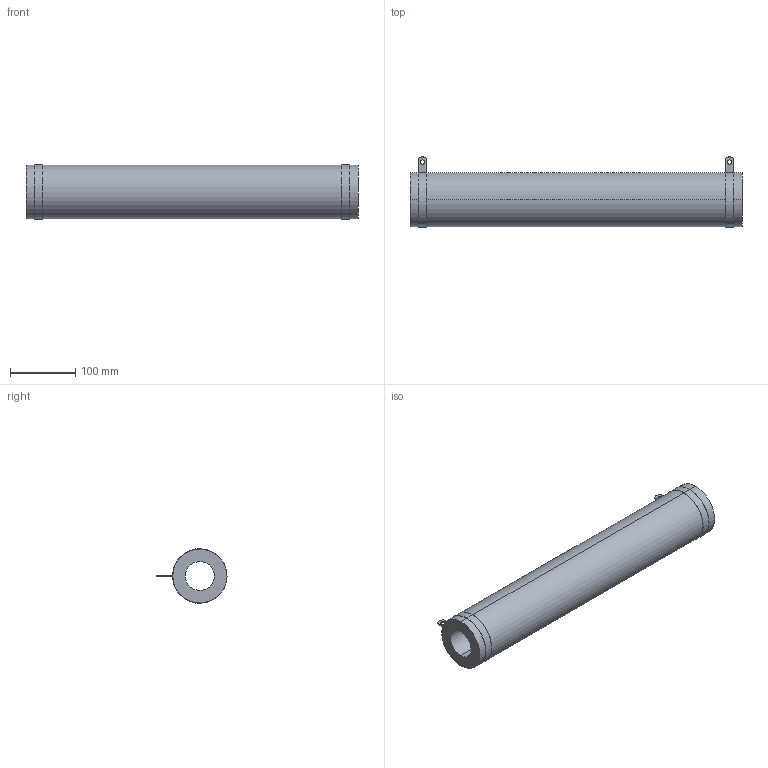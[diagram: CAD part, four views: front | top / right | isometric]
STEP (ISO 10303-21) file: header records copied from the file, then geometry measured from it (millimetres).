
FILE_DESCRIPTION (( 'STEP AP203' ), '1' );
FILE_NAME ('RBSF2000xxxxxKGB00.STEP', '2014-04-04T19:12:04', ( '' ), ( '' ), 'SwSTEP 2.0', 'SolidWorks 2012', '' );
FILE_SCHEMA (( 'CONFIG_CONTROL_DESIGN' ));
Length unit declared in the file: millimetre
Products named in the file (3): RBSF2000xxxxxKGB00; DAL013-08_DAL013-145; DAL15-182-XXX_DAL15-182-352
Assembly tree (3 placements, depth 2):
  RBSF2000xxxxxKGB00
    DAL013-08_DAL013-145
    DAL15-182-XXX_DAL15-182-352  x2
Bounding box: 508 x 107.3 x 83.43 mm (x, y, z)
Volume: 1934047.6 mm3; surface area: 226178.5 mm2
Topology: 3 solids, 3 shells, 76 faces, 162 edges, 92 vertices
Faces by surface type: plane 46, cylinder 30
Entity records: 1432 total; most frequent: DIRECTION 215, CARTESIAN_POINT 184, ORIENTED_EDGE 174, EDGE_CURVE 87, AXIS2_PLACEMENT_3D 81, LINE 53, VECTOR 53, VERTEX_POINT 50
